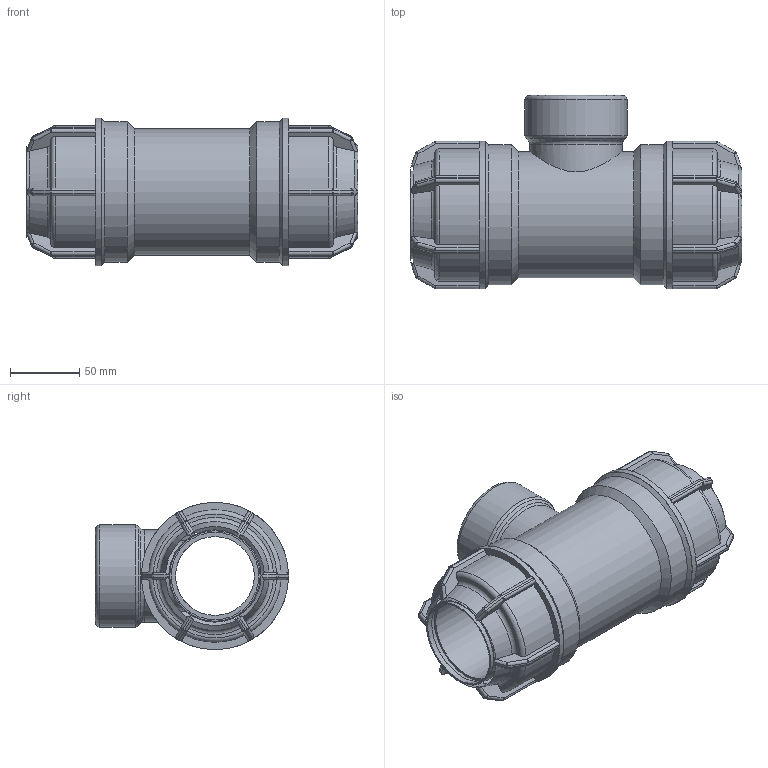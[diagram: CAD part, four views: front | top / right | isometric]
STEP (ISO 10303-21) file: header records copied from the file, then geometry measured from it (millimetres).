
FILE_DESCRIPTION(/* description */ ('PLASSON L.14 TEE FEMALE ADAPTOR (SILVER) 63 x 2" x 63'),/* implementation_level */ '2;1');
FILE_NAME(/* name */ 'C:\Dropbox\KIMPROJECTS-Inventor\99-16-3568-Processing\Silver Fittings\141400\141400063020.ipt.stp',/* time_stamp */ '2018-04-16T11:15:58+03:00',/* author */ ('KIM'),/* organization */ (''),/* preprocessor_version */ 'ST-DEVELOPER v15.6',/* originating_system */ 'Autodesk Inventor 2015',/* authorisation */ '');
FILE_SCHEMA (('AUTOMOTIVE_DESIGN { 1 0 10303 214 3 1 1 }'));
Length unit declared in the file: millimetre
Products named in the file (1): 141400063020
Bounding box: 239 x 139 x 106 mm (x, y, z)
Volume: 956964.1 mm3; surface area: 151697 mm2
Topology: 1 solids, 1 shells, 414 faces, 979 edges, 562 vertices
Faces by surface type: plane 194, cylinder 122, sphere 48, torus 31, cone 19
Full cylindrical faces by diameter (mm): 50.4 x1, 56.656 x1, 56.7 x1, 63 x4, 66.288 x1, 73.653 x1, 90.72 x1, 100.8 x2, 106 x2
Entity records: 12044 total; most frequent: CARTESIAN_POINT 3149, DIRECTION 1872, ORIENTED_EDGE 1822, EDGE_CURVE 911, AXIS2_PLACEMENT_3D 756, VERTEX_POINT 539, EDGE_LOOP 450, FACE_OUTER_BOUND 410
